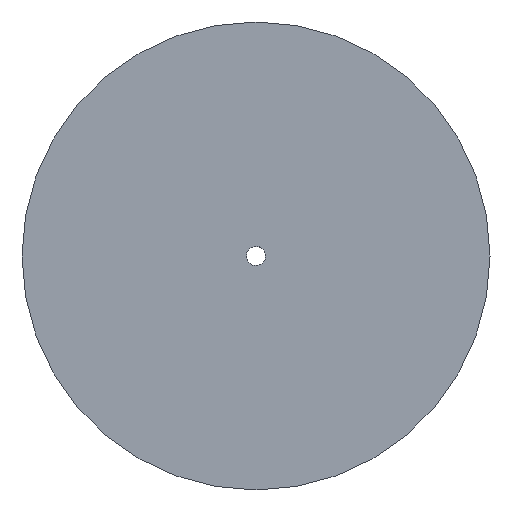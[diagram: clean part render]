
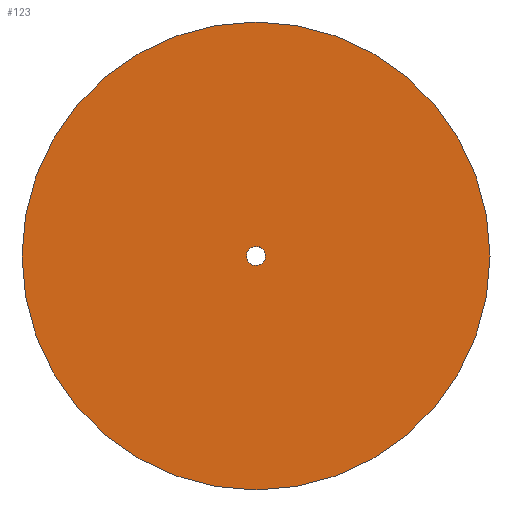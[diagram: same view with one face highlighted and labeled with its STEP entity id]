
A CAD part, top view. The second image highlights one B-rep face of the part: STEP entity #123.
In plain terms, the highlighted planar face has unit normal (0, 0, 1).
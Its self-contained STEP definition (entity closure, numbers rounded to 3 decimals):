
#62=CARTESIAN_POINT('Vertex',(-2.852,1.558,0.)) ;
#76=CARTESIAN_POINT('Vertex',(2.852,-1.558,0.)) ;
#79=CARTESIAN_POINT('Axis2P3D Location',(0.,0.,0.)) ;
#91=CARTESIAN_POINT('Axis2P3D Location',(0.,0.,0.)) ;
#96=CARTESIAN_POINT('Axis2P3D Location',(0.,0.,0.)) ;
#100=CARTESIAN_POINT('Vertex',(80.,0.,0.)) ;
#102=CARTESIAN_POINT('Vertex',(-80.,0.,0.)) ;
#105=CARTESIAN_POINT('Axis2P3D Location',(0.,0.,0.)) ;
#114=CARTESIAN_POINT('Axis2P3D Location',(0.,0.,0.)) ;
#80=DIRECTION('Axis2P3D Direction',(0.,-0.,-1.)) ;
#92=DIRECTION('Axis2P3D Direction',(0.,0.,1.)) ;
#93=DIRECTION('Axis2P3D XDirection',(1.,0.,0.)) ;
#97=DIRECTION('Axis2P3D Direction',(0.,0.,1.)) ;
#106=DIRECTION('Axis2P3D Direction',(0.,0.,1.)) ;
#115=DIRECTION('Axis2P3D Direction',(0.,0.,1.)) ;
#81=AXIS2_PLACEMENT_3D('Circle Axis2P3D',#79,#80,$) ;
#94=AXIS2_PLACEMENT_3D('Plane Axis2P3D',#91,#92,#93) ;
#98=AXIS2_PLACEMENT_3D('Circle Axis2P3D',#96,#97,$) ;
#107=AXIS2_PLACEMENT_3D('Circle Axis2P3D',#105,#106,$) ;
#116=AXIS2_PLACEMENT_3D('Circle Axis2P3D',#114,#115,$) ;
#111=ORIENTED_EDGE('',*,*,#104,.F.) ;
#112=ORIENTED_EDGE('',*,*,#109,.F.) ;
#120=ORIENTED_EDGE('',*,*,#118,.F.) ;
#121=ORIENTED_EDGE('',*,*,#83,.F.) ;
#122=FACE_BOUND('',#119,.T.) ;
#123=ADVANCED_FACE('PartBody',(#113,#122),#95,.T.) ;
#82=CIRCLE('generated circle',#81,3.25) ;
#99=CIRCLE('generated circle',#98,80.) ;
#108=CIRCLE('generated circle',#107,80.) ;
#117=CIRCLE('generated circle',#116,3.25) ;
#83=EDGE_CURVE('',#77,#63,#82,.F.) ;
#104=EDGE_CURVE('',#101,#103,#99,.F.) ;
#109=EDGE_CURVE('',#103,#101,#108,.F.) ;
#118=EDGE_CURVE('',#63,#77,#117,.T.) ;
#110=EDGE_LOOP('',(#111,#112)) ;
#119=EDGE_LOOP('',(#120,#121)) ;
#113=FACE_OUTER_BOUND('',#110,.T.) ;
#95=PLANE('',#94) ;
#63=VERTEX_POINT('',#62) ;
#77=VERTEX_POINT('',#76) ;
#101=VERTEX_POINT('',#100) ;
#103=VERTEX_POINT('',#102) ;
